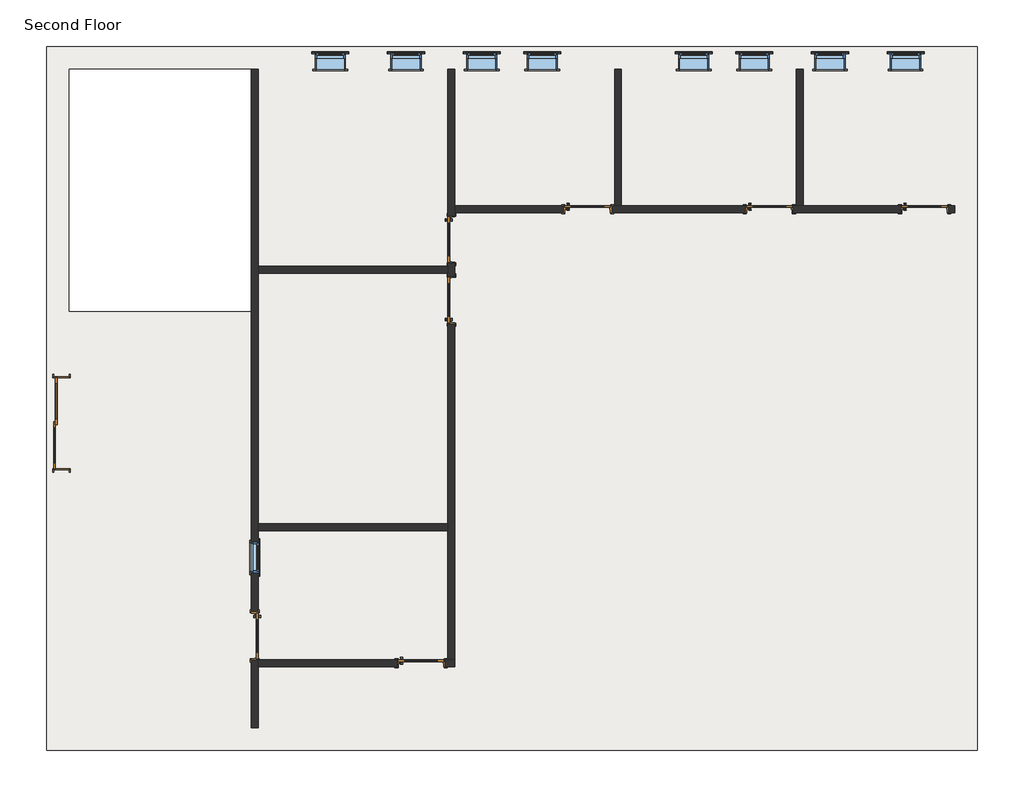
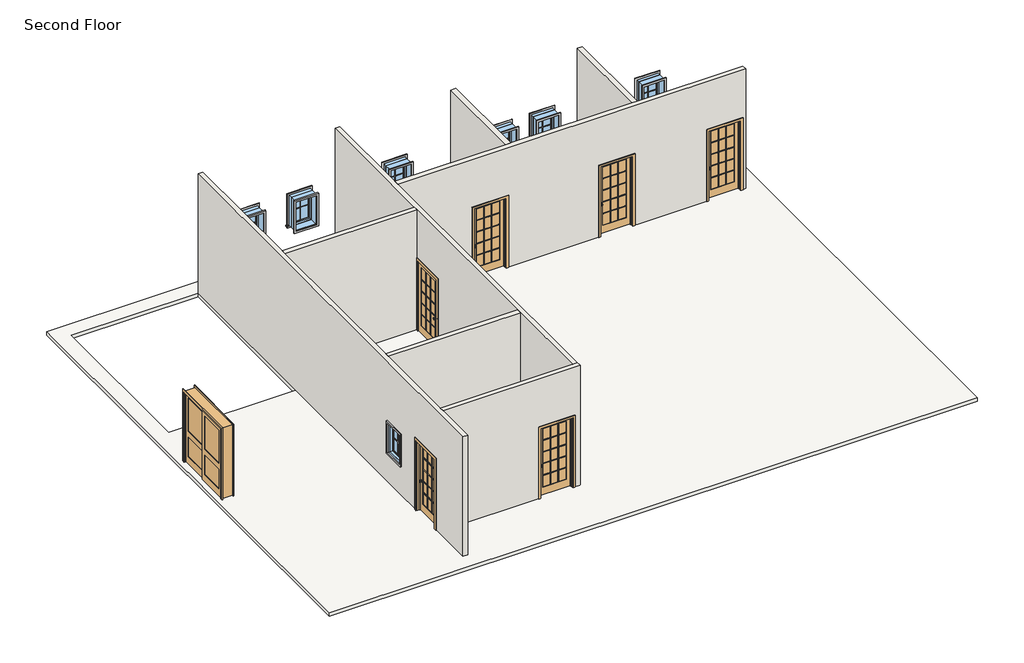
# One storey: 27 proxies, 9 windows, 8 doors, 8 walls, 1 slab.
"""IFC4 building model written with IfcOpenShell, lengths in millimetres."""

from ifc_helpers import new_model, si_unit, frame, origin, place, context, project, spatial, polyline, outline, extrude, faceted_brep, transform, mapped, element, save
from components import muntin_pattern_2x2_muntin_pattern_2x2_cf4092f1, muntin_pattern_2x2_muntin_pattern_2x2_49143b38, trim_window_exterior_flat_with_sill_a665a915, trim_window_exterior_flat_with_sill_4c72db77, trim_window_interior_flat_picture_frame_d485c387, trim_window_interior_flat_picture_frame_dfd23ff3, door_956c32c9, door_918c180d, door_79dd3e86, window_d7bc73cd, window_8e02f281, window_2fd3c40a

model = new_model("IFC4")

# Units and contexts
model_context = context("Model", 3, world=origin())
ifc_project = project(units=[si_unit("LENGTHUNIT", "METRE", prefix="MILLI")], contexts=[model_context])

# Site, building, storey
site = spatial("IfcSite", under=ifc_project)
building = spatial("IfcBuilding", under=site)
storey = spatial("IfcBuildingStorey", under=building, Name="Second Floor", Elevation=7315.2)

# Proxies
placement = place(None, origin())
muntin_pattern_2x2_muntin_pattern_2x2_shape = muntin_pattern_2x2_muntin_pattern_2x2_cf4092f1(model_context)
element("IfcBuildingElementProxy", 1, Name="Muntin Pattern_2x2 : Muntin Pattern_2x2", ObjectType="Muntin Pattern_2x2 : Muntin Pattern_2x2", at=placement, inside=storey, context=model_context, shape_type="MappedRepresentation", body=[
    mapped(muntin_pattern_2x2_muntin_pattern_2x2_shape, transform((-14168.6597136, 1858.8705992, 8299.45), x_axis=(0.0, -1.0, 0.0), y_axis=(1.0, 0.0, 0.0), z_axis=(0.0, 0.0, 1.0))),
])
element("IfcBuildingElementProxy", 2, Name="Muntin Pattern_2x2 : Muntin Pattern_2x2", ObjectType="Muntin Pattern_2x2 : Muntin Pattern_2x2", at=placement, inside=storey, context=model_context, shape_type="MappedRepresentation", body=[
    mapped(muntin_pattern_2x2_muntin_pattern_2x2_shape, transform((-1122.5847136, 11991.8830992, 8299.45), x_axis=(1.0, 0.0, 0.0), y_axis=(0.0, 1.0, 0.0), z_axis=(0.0, 0.0, 1.0))),
])
element("IfcBuildingElementProxy", 3, Name="Muntin Pattern_2x2 : Muntin Pattern_2x2", ObjectType="Muntin Pattern_2x2 : Muntin Pattern_2x2", at=placement, inside=storey, context=model_context, shape_type="MappedRepresentation", body=[
    mapped(muntin_pattern_2x2_muntin_pattern_2x2_shape, transform((-2646.5847136, 11991.8830992, 8299.45), x_axis=(1.0, 0.0, 0.0), y_axis=(0.0, 1.0, 0.0), z_axis=(0.0, 0.0, 1.0))),
])
element("IfcBuildingElementProxy", 4, Name="Muntin Pattern_2x2 : Muntin Pattern_2x2", ObjectType="Muntin Pattern_2x2 : Muntin Pattern_2x2", at=placement, inside=storey, context=model_context, shape_type="MappedRepresentation", body=[
    mapped(muntin_pattern_2x2_muntin_pattern_2x2_shape, transform((-4170.5847136, 11991.8830992, 8299.45), x_axis=(1.0, 0.0, 0.0), y_axis=(0.0, 1.0, 0.0), z_axis=(0.0, 0.0, 1.0))),
])
element("IfcBuildingElementProxy", 5, Name="Muntin Pattern_2x2 : Muntin Pattern_2x2", ObjectType="Muntin Pattern_2x2 : Muntin Pattern_2x2", at=placement, inside=storey, context=model_context, shape_type="MappedRepresentation", body=[
    mapped(muntin_pattern_2x2_muntin_pattern_2x2_shape, transform((-5389.7847136, 11991.8830992, 8299.45), x_axis=(1.0, 0.0, 0.0), y_axis=(0.0, 1.0, 0.0), z_axis=(0.0, 0.0, 1.0))),
])
muntin_pattern_2x2_muntin_pattern_2x2_2_shape = muntin_pattern_2x2_muntin_pattern_2x2_49143b38(model_context)
element("IfcBuildingElementProxy", 6, Name="Muntin Pattern_2x2 : Muntin Pattern_2x2", ObjectType="Muntin Pattern_2x2 : Muntin Pattern_2x2", at=placement, inside=storey, context=model_context, shape_type="MappedRepresentation", body=[
    mapped(muntin_pattern_2x2_muntin_pattern_2x2_2_shape, transform((-12704.9847136, 11991.8830992, 8299.45), x_axis=(-1.0, 0.0, 0.0), y_axis=(0.0, -1.0, 0.0), z_axis=(0.0, 0.0, 1.0))),
])
element("IfcBuildingElementProxy", 7, Name="Muntin Pattern_2x2 : Muntin Pattern_2x2", ObjectType="Muntin Pattern_2x2 : Muntin Pattern_2x2", at=placement, inside=storey, context=model_context, shape_type="MappedRepresentation", body=[
    mapped(muntin_pattern_2x2_muntin_pattern_2x2_2_shape, transform((-11180.9847136, 11991.8830992, 8299.45), x_axis=(-1.0, 0.0, 0.0), y_axis=(0.0, -1.0, 0.0), z_axis=(0.0, 0.0, 1.0))),
])
element("IfcBuildingElementProxy", 8, Name="Muntin Pattern_2x2 : Muntin Pattern_2x2", ObjectType="Muntin Pattern_2x2 : Muntin Pattern_2x2", at=placement, inside=storey, context=model_context, shape_type="MappedRepresentation", body=[
    mapped(muntin_pattern_2x2_muntin_pattern_2x2_2_shape, transform((-9656.9847136, 11991.8830992, 8299.45), x_axis=(-1.0, 0.0, 0.0), y_axis=(0.0, -1.0, 0.0), z_axis=(0.0, 0.0, 1.0))),
])
element("IfcBuildingElementProxy", 9, Name="Muntin Pattern_2x2 : Muntin Pattern_2x2", ObjectType="Muntin Pattern_2x2 : Muntin Pattern_2x2", at=placement, inside=storey, context=model_context, shape_type="MappedRepresentation", body=[
    mapped(muntin_pattern_2x2_muntin_pattern_2x2_2_shape, transform((-8437.7847136, 11991.8830992, 8299.45), x_axis=(-1.0, 0.0, 0.0), y_axis=(0.0, -1.0, 0.0), z_axis=(0.0, 0.0, 1.0))),
])
trim_window_exterior_flat_with_sill_shape = trim_window_exterior_flat_with_sill_a665a915(model_context)
element("IfcBuildingElementProxy", 10, Name="Trim-Window-Exterior-Flat : with Sill", ObjectType="Trim-Window-Exterior-Flat : with Sill", at=placement, inside=storey, context=model_context, shape_type="MappedRepresentation", body=[
    mapped(trim_window_exterior_flat_with_sill_shape, transform((-14159.1347136, 1858.8705992, 9144.0), x_axis=(0.0, 1.0, 0.0), y_axis=(0.0, 0.0, 1.0), z_axis=(1.0, 0.0, 0.0))),
])
element("IfcBuildingElementProxy", 11, Name="Trim-Window-Exterior-Flat : with Sill", ObjectType="Trim-Window-Exterior-Flat : with Sill", at=placement, inside=storey, context=model_context, shape_type="MappedRepresentation", body=[
    mapped(trim_window_exterior_flat_with_sill_shape, transform((-1122.5847136, 12001.4080992, 9144.0), x_axis=(-1.0, 0.0, 0.0), y_axis=(0.0, 0.0, 1.0), z_axis=(0.0, 1.0, 0.0))),
])
element("IfcBuildingElementProxy", 12, Name="Trim-Window-Exterior-Flat : with Sill", ObjectType="Trim-Window-Exterior-Flat : with Sill", at=placement, inside=storey, context=model_context, shape_type="MappedRepresentation", body=[
    mapped(trim_window_exterior_flat_with_sill_shape, transform((-2646.5847136, 12001.4080992, 9144.0), x_axis=(-1.0, 0.0, 0.0), y_axis=(0.0, 0.0, 1.0), z_axis=(0.0, 1.0, 0.0))),
])
element("IfcBuildingElementProxy", 13, Name="Trim-Window-Exterior-Flat : with Sill", ObjectType="Trim-Window-Exterior-Flat : with Sill", at=placement, inside=storey, context=model_context, shape_type="MappedRepresentation", body=[
    mapped(trim_window_exterior_flat_with_sill_shape, transform((-4170.5847136, 12001.4080992, 9144.0), x_axis=(-1.0, 0.0, 0.0), y_axis=(0.0, 0.0, 1.0), z_axis=(0.0, 1.0, 0.0))),
])
element("IfcBuildingElementProxy", 14, Name="Trim-Window-Exterior-Flat : with Sill", ObjectType="Trim-Window-Exterior-Flat : with Sill", at=placement, inside=storey, context=model_context, shape_type="MappedRepresentation", body=[
    mapped(trim_window_exterior_flat_with_sill_shape, transform((-5389.7847136, 12001.4080992, 9144.0), x_axis=(-1.0, 0.0, 0.0), y_axis=(0.0, 0.0, 1.0), z_axis=(0.0, 1.0, 0.0))),
])
trim_window_exterior_flat_with_sill_2_shape = trim_window_exterior_flat_with_sill_4c72db77(model_context)
element("IfcBuildingElementProxy", 15, Name="Trim-Window-Exterior-Flat : with Sill", ObjectType="Trim-Window-Exterior-Flat : with Sill", at=placement, inside=storey, context=model_context, shape_type="MappedRepresentation", body=[
    mapped(trim_window_exterior_flat_with_sill_2_shape, transform((-12704.9847136, 12001.4080992, 9144.0), x_axis=(1.0, 0.0, 0.0), y_axis=(0.0, 0.0, -1.0), z_axis=(0.0, 1.0, 0.0))),
])
element("IfcBuildingElementProxy", 16, Name="Trim-Window-Exterior-Flat : with Sill", ObjectType="Trim-Window-Exterior-Flat : with Sill", at=placement, inside=storey, context=model_context, shape_type="MappedRepresentation", body=[
    mapped(trim_window_exterior_flat_with_sill_2_shape, transform((-11180.9847136, 12001.4080992, 9144.0), x_axis=(1.0, 0.0, 0.0), y_axis=(0.0, 0.0, -1.0), z_axis=(0.0, 1.0, 0.0))),
])
element("IfcBuildingElementProxy", 17, Name="Trim-Window-Exterior-Flat : with Sill", ObjectType="Trim-Window-Exterior-Flat : with Sill", at=placement, inside=storey, context=model_context, shape_type="MappedRepresentation", body=[
    mapped(trim_window_exterior_flat_with_sill_2_shape, transform((-9656.9847136, 12001.4080992, 9144.0), x_axis=(1.0, 0.0, 0.0), y_axis=(0.0, 0.0, -1.0), z_axis=(0.0, 1.0, 0.0))),
])
element("IfcBuildingElementProxy", 18, Name="Trim-Window-Exterior-Flat : with Sill", ObjectType="Trim-Window-Exterior-Flat : with Sill", at=placement, inside=storey, context=model_context, shape_type="MappedRepresentation", body=[
    mapped(trim_window_exterior_flat_with_sill_2_shape, transform((-8437.7847136, 12001.4080992, 9144.0), x_axis=(1.0, 0.0, 0.0), y_axis=(0.0, 0.0, -1.0), z_axis=(0.0, 1.0, 0.0))),
])
trim_window_interior_flat_picture_frame_shape = trim_window_interior_flat_picture_frame_d485c387(model_context)
element("IfcBuildingElementProxy", 19, Name="Trim-Window-Interior-Flat : Picture Frame", ObjectType="Trim-Window-Interior-Flat : Picture Frame", at=placement, inside=storey, context=model_context, shape_type="MappedRepresentation", body=[
    mapped(trim_window_interior_flat_picture_frame_shape, transform((-14298.8347136, 1858.8705992, 9144.0), x_axis=(0.0, -1.0, 0.0), y_axis=(0.0, 0.0, 1.0), z_axis=(-1.0, 0.0, 0.0))),
])
element("IfcBuildingElementProxy", 20, Name="Trim-Window-Interior-Flat : Picture Frame", ObjectType="Trim-Window-Interior-Flat : Picture Frame", at=placement, inside=storey, context=model_context, shape_type="MappedRepresentation", body=[
    mapped(trim_window_interior_flat_picture_frame_shape, transform((-1122.5847136, 11690.2580992, 9144.0), x_axis=(1.0, 0.0, 0.0), y_axis=(0.0, 0.0, 1.0), z_axis=(0.0, -1.0, 0.0))),
])
element("IfcBuildingElementProxy", 21, Name="Trim-Window-Interior-Flat : Picture Frame", ObjectType="Trim-Window-Interior-Flat : Picture Frame", at=placement, inside=storey, context=model_context, shape_type="MappedRepresentation", body=[
    mapped(trim_window_interior_flat_picture_frame_shape, transform((-2646.5847136, 11690.2580992, 9144.0), x_axis=(1.0, 0.0, 0.0), y_axis=(0.0, 0.0, 1.0), z_axis=(0.0, -1.0, 0.0))),
])
element("IfcBuildingElementProxy", 22, Name="Trim-Window-Interior-Flat : Picture Frame", ObjectType="Trim-Window-Interior-Flat : Picture Frame", at=placement, inside=storey, context=model_context, shape_type="MappedRepresentation", body=[
    mapped(trim_window_interior_flat_picture_frame_shape, transform((-4170.5847136, 11690.2580992, 9144.0), x_axis=(1.0, 0.0, 0.0), y_axis=(0.0, 0.0, 1.0), z_axis=(0.0, -1.0, 0.0))),
])
element("IfcBuildingElementProxy", 23, Name="Trim-Window-Interior-Flat : Picture Frame", ObjectType="Trim-Window-Interior-Flat : Picture Frame", at=placement, inside=storey, context=model_context, shape_type="MappedRepresentation", body=[
    mapped(trim_window_interior_flat_picture_frame_shape, transform((-5389.7847136, 11690.2580992, 9144.0), x_axis=(1.0, 0.0, 0.0), y_axis=(0.0, 0.0, 1.0), z_axis=(0.0, -1.0, 0.0))),
])
trim_window_interior_flat_picture_frame_2_shape = trim_window_interior_flat_picture_frame_dfd23ff3(model_context)
element("IfcBuildingElementProxy", 24, Name="Trim-Window-Interior-Flat : Picture Frame", ObjectType="Trim-Window-Interior-Flat : Picture Frame", at=placement, inside=storey, context=model_context, shape_type="MappedRepresentation", body=[
    mapped(trim_window_interior_flat_picture_frame_2_shape, transform((-12704.9847136, 11690.2580992, 9144.0), x_axis=(-1.0, 0.0, 0.0), y_axis=(0.0, 0.0, -1.0), z_axis=(0.0, -1.0, 0.0))),
])
element("IfcBuildingElementProxy", 25, Name="Trim-Window-Interior-Flat : Picture Frame", ObjectType="Trim-Window-Interior-Flat : Picture Frame", at=placement, inside=storey, context=model_context, shape_type="MappedRepresentation", body=[
    mapped(trim_window_interior_flat_picture_frame_2_shape, transform((-11180.9847136, 11690.2580992, 9144.0), x_axis=(-1.0, 0.0, 0.0), y_axis=(0.0, 0.0, -1.0), z_axis=(0.0, -1.0, 0.0))),
])
element("IfcBuildingElementProxy", 26, Name="Trim-Window-Interior-Flat : Picture Frame", ObjectType="Trim-Window-Interior-Flat : Picture Frame", at=placement, inside=storey, context=model_context, shape_type="MappedRepresentation", body=[
    mapped(trim_window_interior_flat_picture_frame_2_shape, transform((-9656.9847136, 11690.2580992, 9144.0), x_axis=(-1.0, 0.0, 0.0), y_axis=(0.0, 0.0, -1.0), z_axis=(0.0, -1.0, 0.0))),
])
element("IfcBuildingElementProxy", 27, Name="Trim-Window-Interior-Flat : Picture Frame", ObjectType="Trim-Window-Interior-Flat : Picture Frame", at=placement, inside=storey, context=model_context, shape_type="MappedRepresentation", body=[
    mapped(trim_window_interior_flat_picture_frame_2_shape, transform((-8437.7847136, 11690.2580992, 9144.0), x_axis=(-1.0, 0.0, 0.0), y_axis=(0.0, 0.0, -1.0), z_axis=(0.0, -1.0, 0.0))),
])

# Doors
door_shape = door_956c32c9(model_context)
element("IfcDoor", 28, ObjectType="Door-Interior-Double-Sliding-2_Panel-Wood : 72\" x 84\"", at=placement, inside=storey, context=model_context, shape_type="MappedRepresentation", body=[
    mapped(door_shape, transform((-18123.1222136, 4559.7577587, 7315.2), x_axis=(0.0, 1.0, 0.0), y_axis=(-1.0, 0.0, 0.0), z_axis=(0.0, 0.0, 1.0))),
])
door_2_shape = door_918c180d(model_context)
element("IfcDoor", 29, ObjectType="Door-Interior-Single-Full Glass-Wood : 36\" x 84\"", at=placement, inside=storey, context=model_context, shape_type="MappedRepresentation", body=[
    mapped(door_2_shape, transform((-14225.8097136, 277.7205992, 7315.2), x_axis=(0.0, -1.0, 0.0), y_axis=(1.0, 0.0, 0.0), z_axis=(0.0, 0.0, 1.0))),
])
element("IfcDoor", 30, ObjectType="Door-Interior-Single-Full Glass-Wood : 36\" x 84\"", at=placement, inside=storey, context=model_context, shape_type="MappedRepresentation", body=[
    mapped(door_2_shape, transform((-10269.7597136, 7040.4705992, 7315.2), x_axis=(0.0, 1.0, 0.0), y_axis=(-1.0, 0.0, 0.0), z_axis=(0.0, 0.0, 1.0))),
])
element("IfcDoor", 31, ObjectType="Door-Interior-Single-Full Glass-Wood : 36\" x 84\"", at=placement, inside=storey, context=model_context, shape_type="MappedRepresentation", body=[
    mapped(door_2_shape, transform((-7523.3847136, 8872.4455992, 7315.2), x_axis=(1.0, 0.0, 0.0), y_axis=(0.0, 1.0, 0.0), z_axis=(0.0, 0.0, 1.0))),
])
element("IfcDoor", 32, ObjectType="Door-Interior-Single-Full Glass-Wood : 36\" x 84\"", at=placement, inside=storey, context=model_context, shape_type="MappedRepresentation", body=[
    mapped(door_2_shape, transform((-3865.7847136, 8872.4455992, 7315.2), x_axis=(1.0, 0.0, 0.0), y_axis=(0.0, 1.0, 0.0), z_axis=(0.0, 0.0, 1.0))),
])
element("IfcDoor", 33, ObjectType="Door-Interior-Single-Full Glass-Wood : 36\" x 84\"", at=placement, inside=storey, context=model_context, shape_type="MappedRepresentation", body=[
    mapped(door_2_shape, transform((-739.9972136, 8872.4455992, 7315.2), x_axis=(1.0, 0.0, 0.0), y_axis=(0.0, 1.0, 0.0), z_axis=(0.0, 0.0, 1.0))),
])
element("IfcDoor", 34, ObjectType="Door-Interior-Single-Full Glass-Wood : 36\" x 84\"", at=placement, inside=storey, context=model_context, shape_type="MappedRepresentation", body=[
    mapped(door_2_shape, transform((-10876.1847136, -271.5544008, 7315.2), x_axis=(1.0, 0.0, 0.0), y_axis=(0.0, 1.0, 0.0), z_axis=(0.0, 0.0, 1.0))),
])
door_3_shape = door_79dd3e86(model_context)
element("IfcDoor", 35, ObjectType="Door-Interior-Single-Full Glass-Wood : 36\" x 84\"", at=placement, inside=storey, context=model_context, shape_type="MappedRepresentation", body=[
    mapped(door_3_shape, transform((-10269.7597136, 8259.6705992, 7315.2), x_axis=(0.0, -1.0, 0.0), y_axis=(1.0, 0.0, 0.0), z_axis=(0.0, 0.0, 1.0))),
])

# Slab
element("IfcSlab", 36, ObjectType="LW Concrete on Metal Deck", at=placement, inside=storey, context=model_context, shape_type="SweptSolid", body=[
    extrude(outline(polyline([(323.6277864, 12144.2830992), (323.6277864, -2025.7419008), (-18418.3972136, -2025.7419008), (-18418.3972136, 12144.2830992), (323.6277864, 12144.2830992)]), holes=[polyline([(-14298.8347136, 11690.2580992), (-17964.3722136, 11690.2580992), (-17964.3722136, 6811.8705992), (-14298.8347136, 6811.8705992), (-14298.8347136, 11690.2580992)])]), frame((0.0, 0.0, 7210.425), z_axis=(0.0, 0.0, 1.0), x_axis=(1.0, 0.0, 0.0)), (0.0, 0.0, 1.0), 104.775),
])

# Walls
element("IfcWall", 37, ObjectType="Interior - 5 1/2\" Partition (1-hr)", at=placement, inside=storey, context=model_context, shape_type="Brep", body=[
    faceted_brep([(-14298.8347136, -1571.7169008, 10972.8), (-14298.8347136, 11690.2580992, 10972.8), (-14298.8347136, 11690.2580992, 7315.2), (-14298.8347136, 760.3205992, 7315.2), (-14298.8347136, 760.3205992, 9474.2), (-14298.8347136, -204.8794008, 9474.2), (-14298.8347136, -204.8794008, 7315.2), (-14298.8347136, -1571.7169008, 7315.2), (-14298.8347136, 1554.0705992, 9144.0), (-14298.8347136, 1554.0705992, 8229.6), (-14298.8347136, 2163.6705992, 8229.6), (-14298.8347136, 2163.6705992, 9144.0), (-14159.1347136, 11690.2580992, 10972.8), (-14159.1347136, 7719.9205992, 10972.8), (-14159.1347136, 7580.2205992, 10972.8), (-14159.1347136, 2538.3205992, 10972.8), (-14159.1347136, 2398.6205992, 10972.8), (-14159.1347136, -204.8794008, 10972.8), (-14159.1347136, -344.5794008, 10972.8), (-14159.1347136, -1571.7169008, 10972.8), (-14159.1347136, -1571.7169008, 7315.2), (-14159.1347136, -344.5794008, 7315.2), (-14159.1347136, -204.8794008, 7315.2), (-14159.1347136, -204.8794008, 9474.2), (-14159.1347136, 760.3205992, 9474.2), (-14159.1347136, 760.3205992, 7315.2), (-14159.1347136, 2398.6205992, 7315.2), (-14159.1347136, 2538.3205992, 7315.2), (-14159.1347136, 7580.2205992, 7315.2), (-14159.1347136, 7719.9205992, 7315.2), (-14159.1347136, 11690.2580992, 7315.2), (-14159.1347136, 1554.0705992, 9144.0), (-14159.1347136, 2163.6705992, 9144.0), (-14159.1347136, 2163.6705992, 8229.6), (-14159.1347136, 1554.0705992, 8229.6)], [[[0, 1, 2, 3, 4, 5, 6, 7], [8, 9, 10, 11]], [[12, 13, 14, 15, 16, 17, 18, 19, 20, 21, 22, 23, 24, 25, 26, 27, 28, 29, 30], [31, 32, 33, 34]], [[2, 30, 29, 28, 27, 26, 25, 3]], [[20, 7, 6, 22, 21]], [[1, 0, 19, 18, 17, 16, 15, 14, 13, 12]], [[5, 23, 22, 6]], [[23, 5, 4, 24]], [[24, 4, 3, 25]], [[9, 8, 31, 34]], [[10, 9, 34, 33]], [[11, 10, 33, 32]], [[8, 11, 32, 31]], [[2, 1, 12, 30]], [[0, 7, 20, 19]]]),
])
element("IfcWall", 38, ObjectType="Interior - 5 1/2\" Partition (1-hr)", at=placement, inside=storey, context=model_context, shape_type="Brep", body=[
    faceted_brep([(-10196.7347136, -344.5794008, 10972.8), (-14159.1347136, -344.5794008, 10972.8), (-14159.1347136, -344.5794008, 7315.2), (-11358.7847136, -344.5794008, 7315.2), (-11358.7847136, -344.5794008, 9474.2), (-10393.5847136, -344.5794008, 9474.2), (-10393.5847136, -344.5794008, 7315.2), (-10196.7347136, -344.5794008, 7315.2), (-14159.1347136, -204.8794008, 10972.8), (-10336.4347136, -204.8794008, 10972.8), (-10196.7347136, -204.8794008, 10972.8), (-10196.7347136, -204.8794008, 7315.2), (-10336.4347136, -204.8794008, 7315.2), (-10393.5847136, -204.8794008, 7315.2), (-10393.5847136, -204.8794008, 9474.2), (-11358.7847136, -204.8794008, 9474.2), (-11358.7847136, -204.8794008, 7315.2), (-14159.1347136, -204.8794008, 7315.2), (-14159.1347136, -204.8794008, 9474.2)], [[[0, 1, 2, 3, 4, 5, 6, 7]], [[8, 9, 10, 11, 12, 13, 14, 15, 16, 17, 18]], [[2, 17, 16, 3]], [[11, 7, 6, 13, 12]], [[1, 0, 10, 9, 8]], [[2, 1, 8, 18, 17]], [[0, 7, 11, 10]], [[5, 14, 13, 6]], [[14, 5, 4, 15]], [[15, 4, 3, 16]]]),
])
element("IfcWall", 39, ObjectType="Interior - 5 1/2\" Partition (1-hr)", at=placement, inside=storey, context=model_context, shape_type="Brep", body=[
    faceted_brep([(-10196.7347136, 11690.2580992, 10972.8), (-10196.7347136, 8939.1205992, 10972.8), (-10196.7347136, 8799.4205992, 10972.8), (-10196.7347136, -204.8794008, 10972.8), (-10196.7347136, -204.8794008, 7315.2), (-10196.7347136, 6557.8705992, 7315.2), (-10196.7347136, 6557.8705992, 9474.2), (-10196.7347136, 7523.0705992, 9474.2), (-10196.7347136, 7523.0705992, 7315.2), (-10196.7347136, 7777.0705992, 7315.2), (-10196.7347136, 7777.0705992, 9474.2), (-10196.7347136, 8742.2705992, 9474.2), (-10196.7347136, 8742.2705992, 7315.2), (-10196.7347136, 8799.4205992, 7315.2), (-10196.7347136, 8939.1205992, 7315.2), (-10196.7347136, 11690.2580992, 7315.2), (-10336.4347136, -204.8794008, 10972.8), (-10336.4347136, 2398.6205992, 10972.8), (-10336.4347136, 2538.3205992, 10972.8), (-10336.4347136, 7580.2205992, 10972.8), (-10336.4347136, 7719.9205992, 10972.8), (-10336.4347136, 11690.2580992, 10972.8), (-10336.4347136, 11690.2580992, 7315.2), (-10336.4347136, 8742.2705992, 7315.2), (-10336.4347136, 8742.2705992, 9474.2), (-10336.4347136, 7777.0705992, 9474.2), (-10336.4347136, 7777.0705992, 7315.2), (-10336.4347136, 7719.9205992, 7315.2), (-10336.4347136, 7580.2205992, 7315.2), (-10336.4347136, 7523.0705992, 7315.2), (-10336.4347136, 7523.0705992, 9474.2), (-10336.4347136, 6557.8705992, 9474.2), (-10336.4347136, 6557.8705992, 7315.2), (-10336.4347136, 2538.3205992, 7315.2), (-10336.4347136, 2398.6205992, 7315.2), (-10336.4347136, -204.8794008, 7315.2)], [[[0, 1, 2, 3, 4, 5, 6, 7, 8, 9, 10, 11, 12, 13, 14, 15]], [[16, 17, 18, 19, 20, 21, 22, 23, 24, 25, 26, 27, 28, 29, 30, 31, 32, 33, 34, 35]], [[4, 35, 34, 33, 32, 5]], [[8, 29, 28, 27, 26, 9]], [[22, 15, 14, 13, 12, 23]], [[3, 2, 1, 0, 21, 20, 19, 18, 17, 16]], [[4, 3, 16, 35]], [[7, 30, 29, 8]], [[30, 7, 6, 31]], [[31, 6, 5, 32]], [[25, 10, 9, 26]], [[10, 25, 24, 11]], [[11, 24, 23, 12]], [[0, 15, 22, 21]]]),
])
element("IfcWall", 40, ObjectType="Interior - 5 1/2\" Partition (1-hr)", at=placement, inside=storey, context=model_context, shape_type="Brep", body=[
    faceted_brep([(-10196.7347136, 8939.1205992, 10972.8), (-6983.6347136, 8939.1205992, 10972.8), (-6843.9347136, 8939.1205992, 10972.8), (-3326.0347136, 8939.1205992, 10972.8), (-3186.3347136, 8939.1205992, 10972.8), (-130.3972136, 8939.1205992, 10972.8), (-130.3972136, 8939.1205992, 7315.2), (-257.3972136, 8939.1205992, 7315.2), (-257.3972136, 8939.1205992, 9474.2), (-1222.5972136, 8939.1205992, 9474.2), (-1222.5972136, 8939.1205992, 7315.2), (-3186.3347136, 8939.1205992, 7315.2), (-3326.0347136, 8939.1205992, 7315.2), (-3383.1847136, 8939.1205992, 7315.2), (-3383.1847136, 8939.1205992, 9474.2), (-4348.3847136, 8939.1205992, 9474.2), (-4348.3847136, 8939.1205992, 7315.2), (-6843.9347136, 8939.1205992, 7315.2), (-6983.6347136, 8939.1205992, 7315.2), (-7040.7847136, 8939.1205992, 7315.2), (-7040.7847136, 8939.1205992, 9474.2), (-8005.9847136, 8939.1205992, 9474.2), (-8005.9847136, 8939.1205992, 7315.2), (-10196.7347136, 8939.1205992, 7315.2), (-130.3972136, 8799.4205992, 10972.8), (-10196.7347136, 8799.4205992, 10972.8), (-10196.7347136, 8799.4205992, 7315.2), (-8005.9847136, 8799.4205992, 7315.2), (-8005.9847136, 8799.4205992, 9474.2), (-7040.7847136, 8799.4205992, 9474.2), (-7040.7847136, 8799.4205992, 7315.2), (-4348.3847136, 8799.4205992, 7315.2), (-4348.3847136, 8799.4205992, 9474.2), (-3383.1847136, 8799.4205992, 9474.2), (-3383.1847136, 8799.4205992, 7315.2), (-1222.5972136, 8799.4205992, 7315.2), (-1222.5972136, 8799.4205992, 9474.2), (-257.3972136, 8799.4205992, 9474.2), (-257.3972136, 8799.4205992, 7315.2), (-130.3972136, 8799.4205992, 7315.2)], [[[0, 1, 2, 3, 4, 5, 6, 7, 8, 9, 10, 11, 12, 13, 14, 15, 16, 17, 18, 19, 20, 21, 22, 23]], [[24, 25, 26, 27, 28, 29, 30, 31, 32, 33, 34, 35, 36, 37, 38, 39]], [[26, 23, 22, 27]], [[30, 19, 18, 17, 16, 31]], [[34, 13, 12, 11, 10, 35]], [[6, 39, 38, 7]], [[5, 4, 3, 2, 1, 0, 25, 24]], [[0, 23, 26, 25]], [[29, 20, 19, 30]], [[20, 29, 28, 21]], [[21, 28, 27, 22]], [[33, 14, 13, 34]], [[14, 33, 32, 15]], [[15, 32, 31, 16]], [[37, 8, 7, 38]], [[8, 37, 36, 9]], [[9, 36, 35, 10]], [[6, 5, 24, 39]]]),
])
element("IfcWall", 41, ObjectType="Interior - 5 1/2\" Partition (1-hr)", at=placement, inside=storey, context=model_context, shape_type="SweptSolid", body=[
    extrude(outline(polyline([(-10336.4347136, 7580.2205992), (-14159.1347136, 7580.2205992), (-14159.1347136, 7719.9205992), (-10336.4347136, 7719.9205992), (-10336.4347136, 7580.2205992)])), frame((0.0, 0.0, 7315.2), z_axis=(0.0, 0.0, 1.0), x_axis=(1.0, 0.0, 0.0)), (0.0, 0.0, 1.0), 3657.6),
])
element("IfcWall", 42, ObjectType="Interior - 5 1/2\" Partition (1-hr)", at=placement, inside=storey, context=model_context, shape_type="SweptSolid", body=[
    extrude(outline(polyline([(-10336.4347136, 2398.6205992), (-14159.1347136, 2398.6205992), (-14159.1347136, 2538.3205992), (-10336.4347136, 2538.3205992), (-10336.4347136, 2398.6205992)])), frame((0.0, 0.0, 7315.2), z_axis=(0.0, 0.0, 1.0), x_axis=(1.0, 0.0, 0.0)), (0.0, 0.0, 1.0), 3657.6),
])
element("IfcWall", 43, ObjectType="Interior - 5 1/2\" Partition (1-hr)", at=placement, inside=storey, context=model_context, shape_type="SweptSolid", body=[
    extrude(outline(polyline([(-3326.0347136, 8939.1205992), (-3326.0347136, 11690.2580992), (-3186.3347136, 11690.2580992), (-3186.3347136, 8939.1205992), (-3326.0347136, 8939.1205992)])), frame((0.0, 0.0, 7315.2), z_axis=(0.0, 0.0, 1.0), x_axis=(1.0, 0.0, 0.0)), (0.0, 0.0, 1.0), 3657.6),
])
element("IfcWall", 44, ObjectType="Interior - 5 1/2\" Partition (1-hr)", at=placement, inside=storey, context=model_context, shape_type="SweptSolid", body=[
    extrude(outline(polyline([(-6983.6347136, 8939.1205992), (-6983.6347136, 11690.2580992), (-6843.9347136, 11690.2580992), (-6843.9347136, 8939.1205992), (-6983.6347136, 8939.1205992)])), frame((0.0, 0.0, 7315.2), z_axis=(0.0, 0.0, 1.0), x_axis=(1.0, 0.0, 0.0)), (0.0, 0.0, 1.0), 3657.6),
])

# Windows
window_shape = window_d7bc73cd(model_context)
element("IfcWindow", 45, ObjectType="Window-Awning-Single : 24\" x 36\"", at=placement, inside=storey, context=model_context, shape_type="MappedRepresentation", body=[
    mapped(window_shape, transform((-14228.9847136, 1858.8705992, 7315.2), x_axis=(0.0, -1.0, 0.0), y_axis=(1.0, 0.0, 0.0), z_axis=(0.0, 0.0, 1.0))),
])
window_2_shape = window_8e02f281(model_context)
element("IfcWindow", 46, ObjectType="Window-Awning-Single : 24\" x 36\"", at=placement, inside=storey, context=model_context, shape_type="MappedRepresentation", body=[
    mapped(window_2_shape, transform((-12704.9847136, 11845.8330992, 7315.2), x_axis=(-1.0, 0.0, 0.0), y_axis=(0.0, -1.0, 0.0), z_axis=(0.0, 0.0, 1.0))),
])
element("IfcWindow", 47, ObjectType="Window-Awning-Single : 24\" x 36\"", at=placement, inside=storey, context=model_context, shape_type="MappedRepresentation", body=[
    mapped(window_2_shape, transform((-11180.9847136, 11845.8330992, 7315.2), x_axis=(-1.0, 0.0, 0.0), y_axis=(0.0, -1.0, 0.0), z_axis=(0.0, 0.0, 1.0))),
])
element("IfcWindow", 48, ObjectType="Window-Awning-Single : 24\" x 36\"", at=placement, inside=storey, context=model_context, shape_type="MappedRepresentation", body=[
    mapped(window_2_shape, transform((-9656.9847136, 11845.8330992, 7315.2), x_axis=(-1.0, 0.0, 0.0), y_axis=(0.0, -1.0, 0.0), z_axis=(0.0, 0.0, 1.0))),
])
element("IfcWindow", 49, ObjectType="Window-Awning-Single : 24\" x 36\"", at=placement, inside=storey, context=model_context, shape_type="MappedRepresentation", body=[
    mapped(window_2_shape, transform((-8437.7847136, 11845.8330992, 7315.2), x_axis=(-1.0, 0.0, 0.0), y_axis=(0.0, -1.0, 0.0), z_axis=(0.0, 0.0, 1.0))),
])
window_3_shape = window_2fd3c40a(model_context)
element("IfcWindow", 50, ObjectType="Window-Awning-Single : 24\" x 36\"", at=placement, inside=storey, context=model_context, shape_type="MappedRepresentation", body=[
    mapped(window_3_shape, transform((-1122.5847136, 11845.8330992, 7315.2), x_axis=(1.0, 0.0, 0.0), y_axis=(0.0, 1.0, 0.0), z_axis=(0.0, 0.0, 1.0))),
])
element("IfcWindow", 51, ObjectType="Window-Awning-Single : 24\" x 36\"", at=placement, inside=storey, context=model_context, shape_type="MappedRepresentation", body=[
    mapped(window_3_shape, transform((-2646.5847136, 11845.8330992, 7315.2), x_axis=(1.0, 0.0, 0.0), y_axis=(0.0, 1.0, 0.0), z_axis=(0.0, 0.0, 1.0))),
])
element("IfcWindow", 52, ObjectType="Window-Awning-Single : 24\" x 36\"", at=placement, inside=storey, context=model_context, shape_type="MappedRepresentation", body=[
    mapped(window_3_shape, transform((-4170.5847136, 11845.8330992, 7315.2), x_axis=(1.0, 0.0, 0.0), y_axis=(0.0, 1.0, 0.0), z_axis=(0.0, 0.0, 1.0))),
])
element("IfcWindow", 53, ObjectType="Window-Awning-Single : 24\" x 36\"", at=placement, inside=storey, context=model_context, shape_type="MappedRepresentation", body=[
    mapped(window_3_shape, transform((-5389.7847136, 11845.8330992, 7315.2), x_axis=(1.0, 0.0, 0.0), y_axis=(0.0, 1.0, 0.0), z_axis=(0.0, 0.0, 1.0))),
])

save(model, "model.ifc")
